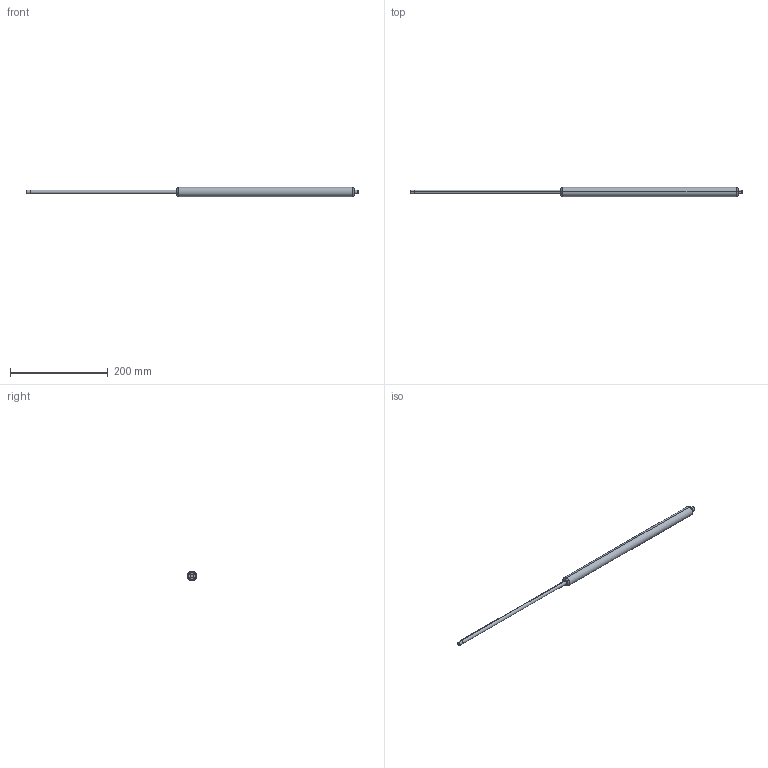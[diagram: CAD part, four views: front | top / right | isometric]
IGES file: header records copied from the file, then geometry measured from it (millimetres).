
Start section: SolidWorks IGES file using analytic representation for surfaces
Bounding box: 681 x 19 x 19 mm (x, y, z)
Surface area: 30066.2 mm2 (no closed solid volume)
Topology: 0 solids, 0 shells, 25 faces, 336 edges, 336 vertices
Faces by surface type: revolution 16, bspline 9
